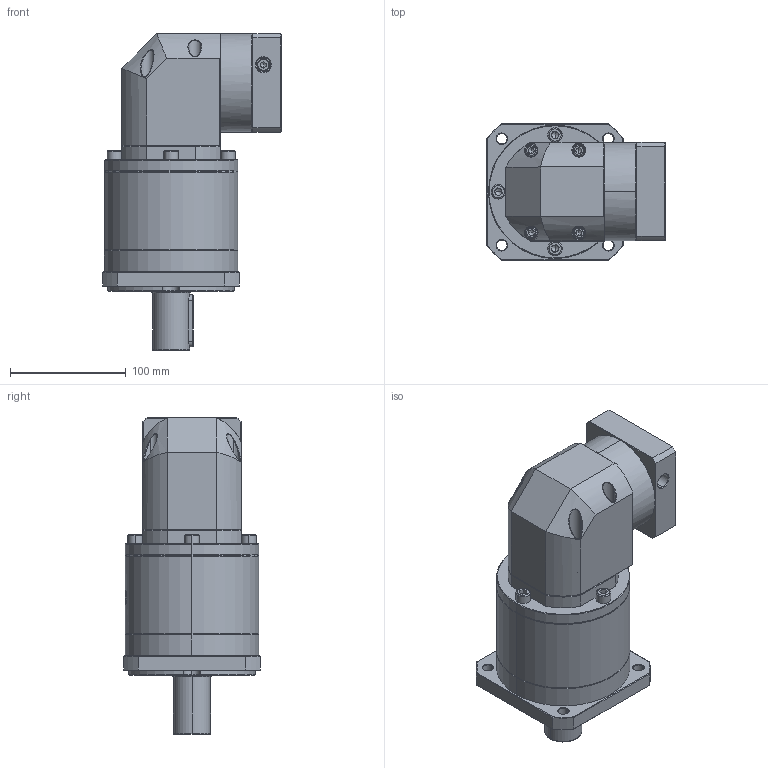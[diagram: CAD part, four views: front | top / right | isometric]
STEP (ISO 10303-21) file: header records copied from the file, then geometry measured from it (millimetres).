
FILE_DESCRIPTION (( 'STEP AP214' ), '1' );
FILE_NAME ('ZFR120A-D32-L3-P2-16-80-100-M6.step', '2023-08-27T09:19:30', ( '' ), ( '' ), 'SwSTEP 2.0', 'SolidWorks 2016', '' );
FILE_SCHEMA (( 'AUTOMOTIVE_DESIGN' ));
Length unit declared in the file: millimetre
Products named in the file (1): ZFR120A-D32-L3-P2-16-80-100-M6
Bounding box: 154.1 x 118 x 273.5 mm (x, y, z)
Volume: 2165338.6 mm3; surface area: 182747.6 mm2
Topology: 6 solids, 6 shells, 2398 faces, 6275 edges, 3985 vertices
Faces by surface type: plane 1153, cylinder 455, bspline 443, cone 333, torus 14
Entity records: 130266 total; most frequent: CARTESIAN_POINT 50611, ORIENTED_EDGE 12458, DIRECTION 9197, EDGE_CURVE 6229, VERTEX_POINT 3985, VECTOR 3333, LINE 3333, AXIS2_PLACEMENT_3D 2932
